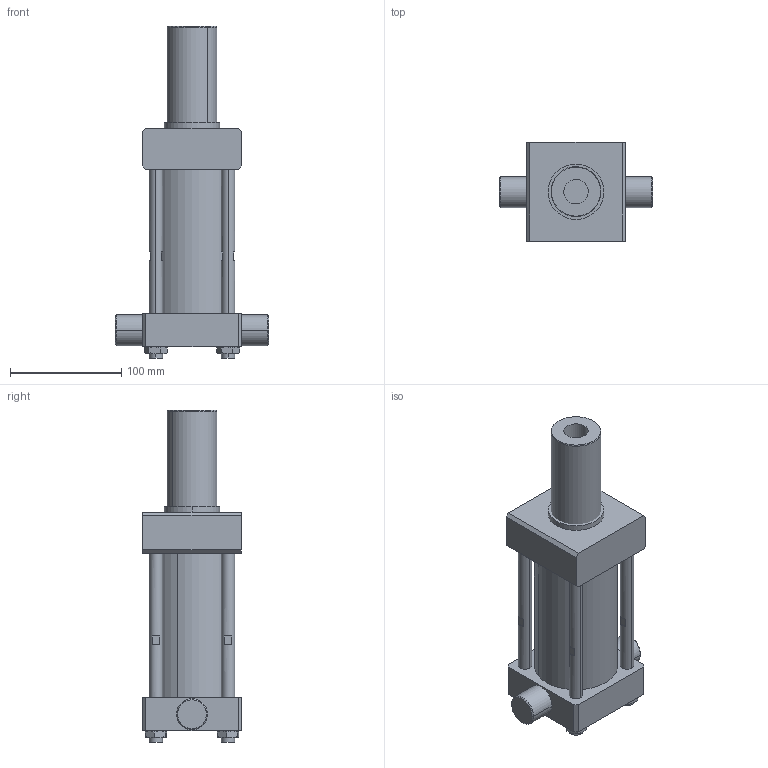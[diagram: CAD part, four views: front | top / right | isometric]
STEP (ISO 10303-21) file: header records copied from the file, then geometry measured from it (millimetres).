
FILE_DESCRIPTION (( 'STEP AP203' ), '1' );
FILE_NAME ('MT2 Tie rod cylinder 63 bore 75mm st.STEP', '2022-10-28T18:00:10', ( '' ), ( '' ), 'SwSTEP 2.0', 'SolidWorks 2017', '' );
FILE_SCHEMA (( 'CONFIG_CONTROL_DESIGN' ));
Length unit declared in the file: millimetre
Products named in the file (7): ME5-63 piston; hex thin nut chamfered gradeab_iso_ISO - 4035 - M12 - N; MT2 Tie rod cylinder 63 bore 75mm st; ME5-63 Front cover; ME5-63 pipe housing; ME5-63 End cover_1; ME5-63 STUD
Assembly tree (12 placements, depth 2):
  MT2 Tie rod cylinder 63 bore 75mm st
    ME5-63 Front cover
    ME5-63 pipe housing
    ME5-63 End cover_1
    ME5-63 STUD  x4
    ME5-63 piston
    hex thin nut chamfered gradeab_iso_ISO - 4035 - M12 - N  x4
Bounding box: 138 x 89 x 299 mm (x, y, z)
Volume: 1042538.5 mm3; surface area: 197436.8 mm2
Topology: 12 solids, 12 shells, 562 faces, 1361 edges, 880 vertices
Faces by surface type: plane 301, bspline 109, cylinder 78, cone 74
Entity records: 20268 total; most frequent: CARTESIAN_POINT 9219, ORIENTED_EDGE 2254, DIRECTION 1737, EDGE_CURVE 1127, VERTEX_POINT 742, LINE 733, VECTOR 733, EDGE_LOOP 515
